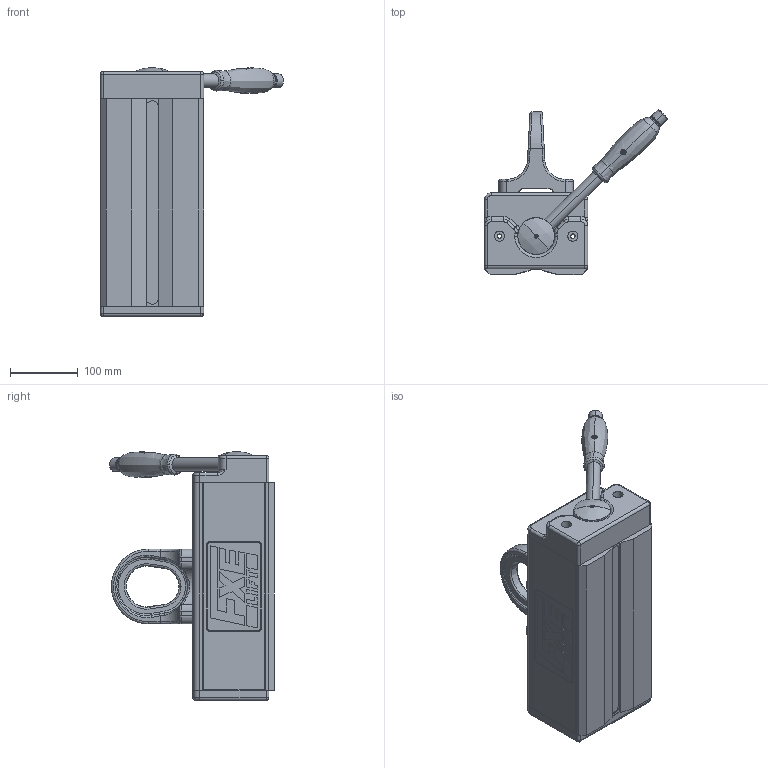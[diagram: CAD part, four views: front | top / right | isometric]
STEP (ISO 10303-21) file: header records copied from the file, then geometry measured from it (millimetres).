
FILE_DESCRIPTION (( 'STEP AP214' ), '1' );
FILE_NAME ('FX 1000.STEP', '2016-06-15T08:30:51', ( '' ), ( '' ), 'SwSTEP 2.0', 'SolidWorks 2013', '' );
FILE_SCHEMA (( 'AUTOMOTIVE_DESIGN' ));
Length unit declared in the file: millimetre
Products named in the file (1): FX 1000
Bounding box: 269.49 x 242.73 x 366.9 mm (x, y, z)
Surface area: 340824.2 mm2 (no closed solid volume)
Topology: 0 solids, 27 shells, 632 faces, 1832 edges, 1180 vertices
Faces by surface type: plane 307, cylinder 133, bspline 122, cone 35, torus 29, sphere 6
Entity records: 40436 total; most frequent: CARTESIAN_POINT 18001, ORIENTED_EDGE 3220, DIRECTION 2922, EDGE_CURVE 1798, VERTEX_POINT 1180, LINE 1014, VECTOR 1014, AXIS2_PLACEMENT_3D 954
